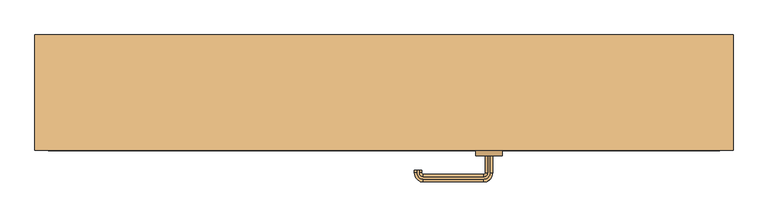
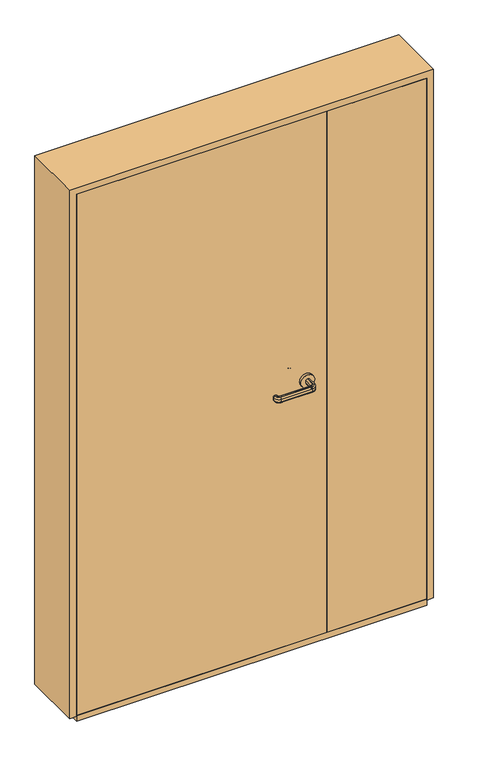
"""IFC4 building model written with IfcOpenShell, lengths in millimetres: door geometry, □C1 親子 フラッシュ_A2枠 : SD1_H2000W1250."""

from ifc_helpers import new_model, si_unit, point, frame, frame_2d, origin, place, context, project, spatial, polyline, circle_curve, ellipse_curve, trimmed, segment, composite_curve, outline, extrude, faceted_brep, source, transform, mapped, element, save
from ifc_brep_helpers import plane_surface, cylinder_surface, revolved_surface, advanced_brep


def door_5352abf3(model_context):
    return source(origin(), model_context, "Body", "SolidModel", [
        extrude(outline(polyline([(640.0, -110.0), (-640.0, -110.0), (-640.0, -65.0), (640.0, -65.0), (640.0, -110.0)])), frame((0.0, 0.0, -20.0), z_axis=(0.0, 0.0, 1.0), x_axis=(1.0, 0.0, 0.0)), (0.0, 0.0, 1.0), 23.0),
        extrude(outline(polyline([(640.0, -65.0), (640.0, -110.0), (275.0, -110.0), (275.0, -65.0), (640.0, -65.0)])), frame((0.0, 0.0, 5.0), z_axis=(0.0, 0.0, 1.0), x_axis=(1.0, 0.0, 0.0)), (0.0, 0.0, 1.0), 2010.0),
        advanced_brep(
        [(202.0, -120.0, 1015.0), (207.0, -120.0, 1010.0), (207.0, -120.0, 1000.0477623), (202.0, -120.0, 995.0477623), (198.0, -120.0, 995.0477623), (193.0, -120.0, 1000.0477623), (193.0, -120.0, 1010.0), (198.0, -120.0, 1015.0), (202.0, -152.5, 1015.0), (207.0, -152.5, 1010.0), (207.0, -152.5, 1000.0477623), (202.0, -152.5, 995.0477623), (190.0, -164.5, 995.0477623), (75.0, -164.5, 995.0477623), (63.0, -152.5, 995.0477623), (63.0, -147.5, 995.0477623), (67.0, -147.5, 995.0477623), (67.0, -152.5, 995.0477623), (75.0, -160.5, 995.0477623), (190.0, -160.5, 995.0477623), (198.0, -152.5, 995.0477623), (193.0, -152.5, 1000.0477623), (193.0, -152.5, 1010.0), (198.0, -152.5, 1015.0), (190.0, -160.5, 1015.0), (75.0, -160.5, 1015.0), (67.0, -152.5, 1015.0), (67.0, -147.5, 1015.0), (63.0, -147.5, 1015.0), (63.0, -152.5, 1015.0), (75.0, -164.5, 1015.0), (190.0, -164.5, 1015.0), (190.0, -169.5, 1010.0), (190.0, -169.5, 1000.0477623), (190.0, -155.5, 1000.0477623), (190.0, -155.5, 1010.0), (75.0, -169.5, 1010.0), (75.0, -169.5, 1000.0477623), (75.0, -155.5, 1000.0477623), (75.0, -155.5, 1010.0), (58.0, -152.5, 1010.0), (58.0, -152.5, 1000.0477623), (72.0, -152.5, 1000.0477623), (72.0, -152.5, 1010.0), (72.0, -147.5, 1010.0), (72.0, -147.5, 1000.0477623), (58.0, -147.5, 1000.0477623), (58.0, -147.5, 1010.0)],
        [
            (0, 1, circle_curve(frame((202.0, -120.0, 1010.0), z_axis=(0.0, 1.0, 0.0), x_axis=(1.0, 0.0, 0.0)), 5.0)),
            (1, 2),
            (2, 3, circle_curve(frame((202.0, -120.0, 1000.0477623), z_axis=(0.0, 1.0, 0.0), x_axis=(1.0, 0.0, 0.0)), 5.0)),
            (3, 4),
            (4, 5, circle_curve(frame((198.0, -120.0, 1000.0477623), z_axis=(0.0, 1.0, 0.0), x_axis=(1.0, 0.0, 0.0)), 5.0)),
            (5, 6),
            (6, 7, circle_curve(frame((198.0, -120.0, 1010.0), z_axis=(0.0, 1.0, 0.0), x_axis=(1.0, 0.0, 0.0)), 5.0)),
            (7, 0),
            (0, 8),
            (8, 9, circle_curve(frame((202.0, -152.5, 1010.0), z_axis=(0.0, 1.0, 0.0), x_axis=(1.0, 0.0, 0.0)), 5.0)),
            (9, 1),
            (9, 10),
            (10, 2),
            (10, 11, circle_curve(frame((202.0, -152.5, 1000.0477623), z_axis=(0.0, 1.0, 0.0), x_axis=(1.0, 0.0, 0.0)), 5.0)),
            (11, 3),
            (11, 12, circle_curve(frame((190.0, -152.5, 995.0477623), z_axis=(0.0, 0.0, -1.0), x_axis=(1.0, 0.0, 0.0)), 12.0)),
            (12, 13),
            (13, 14, circle_curve(frame((75.0, -152.5, 995.0477623), z_axis=(0.0, 0.0, -1.0), x_axis=(0.0, -1.0, 0.0)), 12.0)),
            (14, 15),
            (15, 16),
            (16, 17),
            (17, 18, circle_curve(frame((75.0, -152.5, 995.0477623), z_axis=(0.0, 0.0, 1.0), x_axis=(0.0, -1.0, 0.0)), 8.0)),
            (18, 19),
            (19, 20, circle_curve(frame((190.0, -152.5, 995.0477623), z_axis=(0.0, 0.0, 1.0), x_axis=(1.0, 0.0, 0.0)), 8.0)),
            (20, 4),
            (20, 21, circle_curve(frame((198.0, -152.5, 1000.0477623), z_axis=(0.0, 1.0, 0.0), x_axis=(1.0, 0.0, 0.0)), 5.0)),
            (21, 5),
            (21, 22),
            (22, 6),
            (22, 23, circle_curve(frame((198.0, -152.5, 1010.0), z_axis=(0.0, 1.0, 0.0), x_axis=(1.0, 0.0, 0.0)), 5.0)),
            (23, 7),
            (23, 24, circle_curve(frame((190.0, -152.5, 1015.0), z_axis=(0.0, 0.0, -1.0), x_axis=(1.0, 0.0, 0.0)), 8.0)),
            (24, 25),
            (25, 26, circle_curve(frame((75.0, -152.5, 1015.0), z_axis=(0.0, 0.0, -1.0), x_axis=(0.0, -1.0, 0.0)), 8.0)),
            (26, 27),
            (27, 28),
            (28, 29),
            (29, 30, circle_curve(frame((75.0, -152.5, 1015.0), z_axis=(0.0, 0.0, 1.0), x_axis=(0.0, -1.0, 0.0)), 12.0)),
            (30, 31),
            (31, 8, circle_curve(frame((190.0, -152.5, 1015.0), z_axis=(0.0, 0.0, 1.0), x_axis=(1.0, 0.0, 0.0)), 12.0)),
            (32, 9, circle_curve(frame((190.0, -152.5, 1010.0), z_axis=(0.0, 0.0, 1.0), x_axis=(1.0, 0.0, 0.0)), 17.0)),
            (31, 32, circle_curve(frame((190.0, -164.5, 1010.0), z_axis=(1.0, 0.0, 0.0), x_axis=(0.0, -1.0, 0.0)), 5.0)),
            (33, 10, circle_curve(frame((190.0, -152.5, 1000.0477623), z_axis=(0.0, 0.0, 1.0), x_axis=(1.0, 0.0, 0.0)), 17.0)),
            (32, 33),
            (33, 12, circle_curve(frame((190.0, -164.5, 1000.0477623), z_axis=(1.0, 0.0, 0.0), x_axis=(0.0, -1.0, 0.0)), 5.0)),
            (34, 21, circle_curve(frame((190.0, -152.5, 1000.0477623), z_axis=(0.0, 0.0, 1.0), x_axis=(1.0, 0.0, 0.0)), 3.0)),
            (19, 34, circle_curve(frame((190.0, -160.5, 1000.0477623), z_axis=(1.0, 0.0, 0.0), x_axis=(0.0, -1.0, 0.0)), 5.0)),
            (35, 22, circle_curve(frame((190.0, -152.5, 1010.0), z_axis=(0.0, 0.0, 1.0), x_axis=(1.0, 0.0, 0.0)), 3.0)),
            (34, 35),
            (35, 24, circle_curve(frame((190.0, -160.5, 1010.0), z_axis=(1.0, 0.0, 0.0), x_axis=(0.0, -1.0, 0.0)), 5.0)),
            (30, 36, circle_curve(frame((75.0, -164.5, 1010.0), z_axis=(1.0, 0.0, 0.0), x_axis=(0.0, -1.0, 0.0)), 5.0)),
            (36, 32),
            (36, 37),
            (37, 33),
            (37, 13, circle_curve(frame((75.0, -164.5, 1000.0477623), z_axis=(1.0, 0.0, 0.0), x_axis=(0.0, -1.0, 0.0)), 5.0)),
            (18, 38, circle_curve(frame((75.0, -160.5, 1000.0477623), z_axis=(1.0, 0.0, 0.0), x_axis=(0.0, -1.0, 0.0)), 5.0)),
            (38, 34),
            (38, 39),
            (39, 35),
            (39, 25, circle_curve(frame((75.0, -160.5, 1010.0), z_axis=(1.0, 0.0, 0.0), x_axis=(0.0, -1.0, 0.0)), 5.0)),
            (40, 36, circle_curve(frame((75.0, -152.5, 1010.0), z_axis=(0.0, 0.0, 1.0), x_axis=(0.0, -1.0, 0.0)), 17.0)),
            (29, 40, circle_curve(frame((63.0, -152.5, 1010.0), z_axis=(0.0, -1.0, 0.0), x_axis=(-1.0, 0.0, 0.0)), 5.0)),
            (41, 37, circle_curve(frame((75.0, -152.5, 1000.0477623), z_axis=(0.0, 0.0, 1.0), x_axis=(0.0, -1.0, 0.0)), 17.0)),
            (40, 41),
            (41, 14, circle_curve(frame((63.0, -152.5, 1000.0477623), z_axis=(0.0, -1.0, 0.0), x_axis=(-1.0, 0.0, 0.0)), 5.0)),
            (42, 38, circle_curve(frame((75.0, -152.5, 1000.0477623), z_axis=(0.0, 0.0, 1.0), x_axis=(0.0, -1.0, 0.0)), 3.0)),
            (17, 42, circle_curve(frame((67.0, -152.5, 1000.0477623), z_axis=(0.0, -1.0, 0.0), x_axis=(-1.0, 0.0, 0.0)), 5.0)),
            (43, 39, circle_curve(frame((75.0, -152.5, 1010.0), z_axis=(0.0, 0.0, 1.0), x_axis=(0.0, -1.0, 0.0)), 3.0)),
            (42, 43),
            (43, 26, circle_curve(frame((67.0, -152.5, 1010.0), z_axis=(0.0, -1.0, 0.0), x_axis=(-1.0, 0.0, 0.0)), 5.0)),
            (27, 44, circle_curve(frame((67.0, -147.5, 1010.0), z_axis=(0.0, 1.0, 0.0), x_axis=(-1.0, 0.0, 0.0)), 5.0)),
            (44, 45),
            (45, 16, circle_curve(frame((67.0, -147.5, 1000.0477623), z_axis=(0.0, 1.0, 0.0), x_axis=(-1.0, 0.0, 0.0)), 5.0)),
            (15, 46, circle_curve(frame((63.0, -147.5, 1000.0477623), z_axis=(0.0, 1.0, 0.0), x_axis=(-1.0, 0.0, 0.0)), 5.0)),
            (46, 47),
            (47, 28, circle_curve(frame((63.0, -147.5, 1010.0), z_axis=(0.0, 1.0, 0.0), x_axis=(-1.0, 0.0, 0.0)), 5.0)),
            (47, 40),
            (46, 41),
            (45, 42),
            (44, 43),
        ],
        [
            plane_surface(frame((210.198039, -120.0, 1005.0), z_axis=(0.0, 1.0, 0.0), x_axis=(0.0, 0.0, 1.0))),
            cylinder_surface(frame((202.0, -120.0, 1010.0), z_axis=(0.0, 1.0, 0.0), x_axis=(1.0, 0.0, 0.0)), 5.0),
            plane_surface(frame((207.0, -120.0, 1010.0), z_axis=(1.0, 0.0, 0.0), x_axis=(0.0, -1.0, 0.0))),
            cylinder_surface(frame((202.0, -120.0, 1000.0477623), z_axis=(0.0, 1.0, 0.0), x_axis=(1.0, 0.0, 0.0)), 5.0),
            plane_surface(frame((202.0, -120.0, 995.0477623), z_axis=(0.0, 0.0, -1.0), x_axis=(0.0, -1.0, 0.0))),
            cylinder_surface(frame((198.0, -120.0, 1000.0477623), z_axis=(0.0, 1.0, 0.0), x_axis=(1.0, 0.0, 0.0)), 5.0),
            plane_surface(frame((193.0, -120.0, 1000.0477623), z_axis=(-1.0, 0.0, 0.0), x_axis=(0.0, -1.0, 0.0))),
            cylinder_surface(frame((198.0, -120.0, 1010.0), z_axis=(0.0, 1.0, 0.0), x_axis=(1.0, 0.0, 0.0)), 5.0),
            plane_surface(frame((198.0, -120.0, 1015.0), z_axis=(0.0, 0.0, 1.0), x_axis=(0.0, -1.0, 0.0))),
            revolved_surface(trimmed(ellipse_curve(frame((202.0, -152.5, 1010.0), z_axis=(0.0, 1.0, 0.0), x_axis=(1.0, 0.0, 0.0)), 5.0, 5.0), [point((202.0, -152.5, 1015.0))], [point((207.0, -152.5, 1010.0))], True, "CARTESIAN"), (190.0, -152.5, 1005.0), (0.0, 0.0, -1.0)),
            cylinder_surface(frame((190.0, -152.5, 1005.0), z_axis=(0.0, 0.0, -1.0), x_axis=(1.0, 0.0, 0.0)), 17.0),
            revolved_surface(trimmed(ellipse_curve(frame((202.0, -152.5, 1000.0477623), z_axis=(0.0, 1.0, 0.0), x_axis=(1.0, 0.0, 0.0)), 5.0, 5.0), [point((207.0, -152.5, 1000.0477623))], [point((202.0, -152.5, 995.0477623))], True, "CARTESIAN"), (190.0, -152.5, 1005.0), (0.0, 0.0, -1.0)),
            revolved_surface(trimmed(ellipse_curve(frame((198.0, -152.5, 1000.0477623), z_axis=(0.0, 1.0, 0.0), x_axis=(1.0, 0.0, 0.0)), 5.0, 5.0), [point((198.0, -152.5, 995.0477623))], [point((193.0, -152.5, 1000.0477623))], True, "CARTESIAN"), (190.0, -152.5, 1005.0), (0.0, 0.0, -1.0)),
            revolved_surface(polyline([(193.0, -152.5, 1000.0477623), (193.0, -152.5, 1010.0)]), (190.0, -152.5, 1005.0), (0.0, 0.0, -1.0)),
            revolved_surface(trimmed(ellipse_curve(frame((198.0, -152.5, 1010.0), z_axis=(0.0, 1.0, 0.0), x_axis=(1.0, 0.0, 0.0)), 5.0, 5.0), [point((193.0, -152.5, 1010.0))], [point((198.0, -152.5, 1015.0))], True, "CARTESIAN"), (190.0, -152.5, 1005.0), (0.0, 0.0, -1.0)),
            cylinder_surface(frame((190.0, -164.5, 1010.0), z_axis=(1.0, 0.0, 0.0), x_axis=(0.0, -1.0, 0.0)), 5.0),
            plane_surface(frame((190.0, -169.5, 1010.0), z_axis=(0.0, -1.0, 0.0), x_axis=(-1.0, 0.0, 0.0))),
            cylinder_surface(frame((190.0, -164.5, 1000.0477623), z_axis=(1.0, 0.0, 0.0), x_axis=(0.0, -1.0, 0.0)), 5.0),
            cylinder_surface(frame((190.0, -160.5, 1000.0477623), z_axis=(1.0, 0.0, 0.0), x_axis=(0.0, -1.0, 0.0)), 5.0),
            plane_surface(frame((190.0, -155.5, 1000.0477623), z_axis=(0.0, 1.0, 0.0), x_axis=(-1.0, 0.0, 0.0))),
            cylinder_surface(frame((190.0, -160.5, 1010.0), z_axis=(1.0, 0.0, 0.0), x_axis=(0.0, -1.0, 0.0)), 5.0),
            revolved_surface(trimmed(ellipse_curve(frame((75.0, -164.5, 1010.0), z_axis=(1.0, 0.0, 0.0), x_axis=(0.0, -1.0, 0.0)), 5.0, 5.0), [point((75.0, -164.5, 1015.0))], [point((75.0, -169.5, 1010.0))], True, "CARTESIAN"), (75.0, -152.5, 1005.0), (0.0, 0.0, -1.0)),
            cylinder_surface(frame((75.0, -152.5, 1005.0), z_axis=(0.0, 0.0, -1.0), x_axis=(0.0, -1.0, 0.0)), 17.0),
            revolved_surface(trimmed(ellipse_curve(frame((75.0, -164.5, 1000.0477623), z_axis=(1.0, 0.0, 0.0), x_axis=(0.0, -1.0, 0.0)), 5.0, 5.0), [point((75.0, -169.5, 1000.0477623))], [point((75.0, -164.5, 995.0477623))], True, "CARTESIAN"), (75.0, -152.5, 1005.0), (0.0, 0.0, -1.0)),
            revolved_surface(trimmed(ellipse_curve(frame((75.0, -160.5, 1000.0477623), z_axis=(1.0, 0.0, 0.0), x_axis=(0.0, -1.0, 0.0)), 5.0, 5.0), [point((75.0, -160.5, 995.0477623))], [point((75.0, -155.5, 1000.0477623))], True, "CARTESIAN"), (75.0, -152.5, 1005.0), (0.0, 0.0, -1.0)),
            revolved_surface(polyline([(75.0, -155.5, 1000.0477623), (75.0, -155.5, 1010.0)]), (75.0, -152.5, 1005.0), (0.0, 0.0, -1.0)),
            revolved_surface(trimmed(ellipse_curve(frame((75.0, -160.5, 1010.0), z_axis=(1.0, 0.0, 0.0), x_axis=(0.0, -1.0, 0.0)), 5.0, 5.0), [point((75.0, -155.5, 1010.0))], [point((75.0, -160.5, 1015.0))], True, "CARTESIAN"), (75.0, -152.5, 1005.0), (0.0, 0.0, -1.0)),
            plane_surface(frame((75.198039, -147.5, 1005.0), z_axis=(0.0, 1.0, 0.0), x_axis=(0.0, 0.0, -1.0))),
            cylinder_surface(frame((63.0, -152.5, 1010.0), z_axis=(0.0, -1.0, 0.0), x_axis=(-1.0, 0.0, 0.0)), 5.0),
            plane_surface(frame((58.0, -152.5, 1010.0), z_axis=(-1.0, 0.0, 0.0), x_axis=(0.0, 1.0, 0.0))),
            cylinder_surface(frame((63.0, -152.5, 1000.0477623), z_axis=(0.0, -1.0, 0.0), x_axis=(-1.0, 0.0, 0.0)), 5.0),
            cylinder_surface(frame((67.0, -152.5, 1000.0477623), z_axis=(0.0, -1.0, 0.0), x_axis=(-1.0, 0.0, 0.0)), 5.0),
            plane_surface(frame((72.0, -152.5, 1000.0477623), z_axis=(1.0, 0.0, 0.0), x_axis=(0.0, 1.0, 0.0))),
            cylinder_surface(frame((67.0, -152.5, 1010.0), z_axis=(0.0, -1.0, 0.0), x_axis=(-1.0, 0.0, 0.0)), 5.0),
        ],
        [
            (0, [[1, 2, 3, 4, 5, 6, 7, 8]]),
            (1, [[-1, 9, 10, 11]]),
            (2, [[-2, -11, 12, 13]]),
            (3, [[-3, -13, 14, 15]]),
            (4, [[-4, -15, 16, 17, 18, 19, 20, 21, 22, 23, 24, 25]]),
            (5, [[-5, -25, 26, 27]]),
            (6, [[-6, -27, 28, 29]]),
            (7, [[-7, -29, 30, 31]]),
            (8, [[-8, -31, 32, 33, 34, 35, 36, 37, 38, 39, 40, -9]]),
            (9, [[41, -10, -40, 42]]),
            (10, [[43, -12, -41, 44]]),
            (11, [[-16, -14, -43, 45]]),
            (12, [[46, -26, -24, 47]]),
            (13, [[48, -28, -46, 49]]),
            (14, [[-32, -30, -48, 50]]),
            (15, [[-42, -39, 51, 52]]),
            (16, [[-44, -52, 53, 54]]),
            (17, [[-45, -54, 55, -17]]),
            (18, [[-47, -23, 56, 57]]),
            (19, [[-49, -57, 58, 59]]),
            (20, [[-50, -59, 60, -33]]),
            (21, [[61, -51, -38, 62]]),
            (22, [[63, -53, -61, 64]]),
            (23, [[-18, -55, -63, 65]]),
            (24, [[66, -56, -22, 67]]),
            (25, [[68, -58, -66, 69]]),
            (26, [[-34, -60, -68, 70]]),
            (27, [[-36, 71, 72, 73, -20, 74, 75, 76]]),
            (28, [[-62, -37, -76, 77]]),
            (29, [[-64, -77, -75, 78]]),
            (30, [[-65, -78, -74, -19]]),
            (31, [[-67, -21, -73, 79]]),
            (32, [[-69, -79, -72, 80]]),
            (33, [[-70, -80, -71, -35]]),
        ],
    ),
        advanced_brep(
        [(198.0, -55.0, 995.0), (202.0, -55.0, 995.0), (207.0, -55.0, 1000.0), (207.0, -55.0, 1010.0), (202.0, -55.0, 1015.0), (198.0, -55.0, 1015.0), (193.0, -55.0, 1010.0), (193.0, -55.0, 1000.0), (198.0, -22.5, 995.0), (190.0, -14.5, 995.0), (75.0, -14.5, 995.0), (67.0, -22.5, 995.0), (67.0, -27.5, 995.0), (63.0, -27.5, 995.0), (63.0, -22.5, 995.0), (75.0, -10.5, 995.0), (190.0, -10.5, 995.0), (202.0, -22.5, 995.0), (207.0, -22.5, 1000.0), (207.0, -22.5, 1010.0), (202.0, -22.5, 1015.0), (190.0, -10.5, 1015.0), (75.0, -10.5, 1015.0), (63.0, -22.5, 1015.0), (63.0, -27.5, 1015.0), (67.0, -27.5, 1015.0), (67.0, -22.5, 1015.0), (75.0, -14.5, 1015.0), (190.0, -14.5, 1015.0), (198.0, -22.5, 1015.0), (193.0, -22.5, 1010.0), (193.0, -22.5, 1000.0), (190.0, -5.5, 1000.0), (190.0, -5.5, 1010.0), (190.0, -19.5, 1010.0), (190.0, -19.5, 1000.0), (75.0, -5.5, 1000.0), (75.0, -5.5, 1010.0), (75.0, -19.5, 1010.0), (75.0, -19.5, 1000.0), (58.0, -22.5, 1000.0), (58.0, -22.5, 1010.0), (72.0, -22.5, 1010.0), (72.0, -22.5, 1000.0), (72.0, -27.5, 1000.0), (72.0, -27.5, 1010.0), (58.0, -27.5, 1010.0), (58.0, -27.5, 1000.0)],
        [
            (0, 1),
            (1, 2, circle_curve(frame((202.0, -55.0, 1000.0), z_axis=(0.0, -1.0, 0.0), x_axis=(-1.0, 0.0, 0.0)), 5.0)),
            (2, 3),
            (3, 4, circle_curve(frame((202.0, -55.0, 1010.0), z_axis=(0.0, -1.0, 0.0), x_axis=(-1.0, 0.0, 0.0)), 5.0)),
            (4, 5),
            (5, 6, circle_curve(frame((198.0, -55.0, 1010.0), z_axis=(0.0, -1.0, 0.0), x_axis=(-1.0, 0.0, 0.0)), 5.0)),
            (6, 7),
            (7, 0, circle_curve(frame((198.0, -55.0, 1000.0), z_axis=(0.0, -1.0, 0.0), x_axis=(-1.0, 0.0, 0.0)), 5.0)),
            (0, 8),
            (8, 9, circle_curve(frame((190.0, -22.5, 995.0), z_axis=(0.0, 0.0, 1.0), x_axis=(1.0, 0.0, 0.0)), 8.0)),
            (9, 10),
            (10, 11, circle_curve(frame((75.0, -22.5, 995.0), z_axis=(0.0, 0.0, 1.0), x_axis=(0.0, 1.0, 0.0)), 8.0)),
            (11, 12),
            (12, 13),
            (13, 14),
            (14, 15, circle_curve(frame((75.0, -22.5, 995.0), z_axis=(0.0, 0.0, -1.0), x_axis=(0.0, 1.0, 0.0)), 12.0)),
            (15, 16),
            (16, 17, circle_curve(frame((190.0, -22.5, 995.0), z_axis=(0.0, 0.0, -1.0), x_axis=(1.0, 0.0, 0.0)), 12.0)),
            (17, 1),
            (17, 18, circle_curve(frame((202.0, -22.5, 1000.0), z_axis=(0.0, -1.0, 0.0), x_axis=(-1.0, 0.0, 0.0)), 5.0)),
            (18, 2),
            (18, 19),
            (19, 3),
            (19, 20, circle_curve(frame((202.0, -22.5, 1010.0), z_axis=(0.0, -1.0, 0.0), x_axis=(-1.0, 0.0, 0.0)), 5.0)),
            (20, 4),
            (20, 21, circle_curve(frame((190.0, -22.5, 1015.0), z_axis=(0.0, 0.0, 1.0), x_axis=(1.0, 0.0, 0.0)), 12.0)),
            (21, 22),
            (22, 23, circle_curve(frame((75.0, -22.5, 1015.0), z_axis=(0.0, 0.0, 1.0), x_axis=(0.0, 1.0, 0.0)), 12.0)),
            (23, 24),
            (24, 25),
            (25, 26),
            (26, 27, circle_curve(frame((75.0, -22.5, 1015.0), z_axis=(0.0, 0.0, -1.0), x_axis=(0.0, 1.0, 0.0)), 8.0)),
            (27, 28),
            (28, 29, circle_curve(frame((190.0, -22.5, 1015.0), z_axis=(0.0, 0.0, -1.0), x_axis=(1.0, 0.0, 0.0)), 8.0)),
            (29, 5),
            (29, 30, circle_curve(frame((198.0, -22.5, 1010.0), z_axis=(0.0, -1.0, 0.0), x_axis=(-1.0, 0.0, 0.0)), 5.0)),
            (30, 6),
            (30, 31),
            (31, 7),
            (31, 8, circle_curve(frame((198.0, -22.5, 1000.0), z_axis=(0.0, -1.0, 0.0), x_axis=(-1.0, 0.0, 0.0)), 5.0)),
            (32, 18, circle_curve(frame((190.0, -22.5, 1000.0), z_axis=(0.0, 0.0, -1.0), x_axis=(1.0, 0.0, 0.0)), 17.0)),
            (16, 32, circle_curve(frame((190.0, -10.5, 1000.0), z_axis=(1.0, 0.0, 0.0), x_axis=(0.0, -1.0, 0.0)), 5.0)),
            (33, 19, circle_curve(frame((190.0, -22.5, 1010.0), z_axis=(0.0, 0.0, -1.0), x_axis=(1.0, 0.0, 0.0)), 17.0)),
            (32, 33),
            (33, 21, circle_curve(frame((190.0, -10.5, 1010.0), z_axis=(1.0, 0.0, 0.0), x_axis=(0.0, -1.0, 0.0)), 5.0)),
            (34, 30, circle_curve(frame((190.0, -22.5, 1010.0), z_axis=(0.0, 0.0, -1.0), x_axis=(1.0, 0.0, 0.0)), 3.0)),
            (28, 34, circle_curve(frame((190.0, -14.5, 1010.0), z_axis=(1.0, 0.0, 0.0), x_axis=(0.0, -1.0, 0.0)), 5.0)),
            (35, 31, circle_curve(frame((190.0, -22.5, 1000.0), z_axis=(0.0, 0.0, -1.0), x_axis=(1.0, 0.0, 0.0)), 3.0)),
            (34, 35),
            (35, 9, circle_curve(frame((190.0, -14.5, 1000.0), z_axis=(1.0, 0.0, 0.0), x_axis=(0.0, -1.0, 0.0)), 5.0)),
            (15, 36, circle_curve(frame((75.0, -10.5, 1000.0), z_axis=(1.0, 0.0, 0.0), x_axis=(0.0, -1.0, 0.0)), 5.0)),
            (36, 32),
            (36, 37),
            (37, 33),
            (37, 22, circle_curve(frame((75.0, -10.5, 1010.0), z_axis=(1.0, 0.0, 0.0), x_axis=(0.0, -1.0, 0.0)), 5.0)),
            (27, 38, circle_curve(frame((75.0, -14.5, 1010.0), z_axis=(1.0, 0.0, 0.0), x_axis=(0.0, -1.0, 0.0)), 5.0)),
            (38, 34),
            (38, 39),
            (39, 35),
            (39, 10, circle_curve(frame((75.0, -14.5, 1000.0), z_axis=(1.0, 0.0, 0.0), x_axis=(0.0, -1.0, 0.0)), 5.0)),
            (40, 36, circle_curve(frame((75.0, -22.5, 1000.0), z_axis=(0.0, 0.0, -1.0), x_axis=(0.0, 1.0, 0.0)), 17.0)),
            (14, 40, circle_curve(frame((63.0, -22.5, 1000.0), z_axis=(0.0, 1.0, 0.0), x_axis=(1.0, 0.0, 0.0)), 5.0)),
            (41, 37, circle_curve(frame((75.0, -22.5, 1010.0), z_axis=(0.0, 0.0, -1.0), x_axis=(0.0, 1.0, 0.0)), 17.0)),
            (40, 41),
            (41, 23, circle_curve(frame((63.0, -22.5, 1010.0), z_axis=(0.0, 1.0, 0.0), x_axis=(1.0, 0.0, 0.0)), 5.0)),
            (42, 38, circle_curve(frame((75.0, -22.5, 1010.0), z_axis=(0.0, 0.0, -1.0), x_axis=(0.0, 1.0, 0.0)), 3.0)),
            (26, 42, circle_curve(frame((67.0, -22.5, 1010.0), z_axis=(0.0, 1.0, 0.0), x_axis=(1.0, 0.0, 0.0)), 5.0)),
            (43, 39, circle_curve(frame((75.0, -22.5, 1000.0), z_axis=(0.0, 0.0, -1.0), x_axis=(0.0, 1.0, 0.0)), 3.0)),
            (42, 43),
            (43, 11, circle_curve(frame((67.0, -22.5, 1000.0), z_axis=(0.0, 1.0, 0.0), x_axis=(1.0, 0.0, 0.0)), 5.0)),
            (12, 44, circle_curve(frame((67.0, -27.5, 1000.0), z_axis=(0.0, -1.0, 0.0), x_axis=(1.0, 0.0, 0.0)), 5.0)),
            (44, 45),
            (45, 25, circle_curve(frame((67.0, -27.5, 1010.0), z_axis=(0.0, -1.0, 0.0), x_axis=(1.0, 0.0, 0.0)), 5.0)),
            (24, 46, circle_curve(frame((63.0, -27.5, 1010.0), z_axis=(0.0, -1.0, 0.0), x_axis=(1.0, 0.0, 0.0)), 5.0)),
            (46, 47),
            (47, 13, circle_curve(frame((63.0, -27.5, 1000.0), z_axis=(0.0, -1.0, 0.0), x_axis=(1.0, 0.0, 0.0)), 5.0)),
            (47, 40),
            (46, 41),
            (45, 42),
            (44, 43),
        ],
        [
            plane_surface(frame((210.198039, -55.0, 1005.0), z_axis=(0.0, -1.0, 0.0), x_axis=(0.0, 0.0, -1.0))),
            plane_surface(frame((198.0, -55.0, 995.0), z_axis=(0.0, 0.0, -1.0), x_axis=(0.0, 1.0, 0.0))),
            cylinder_surface(frame((202.0, -55.0, 1000.0), z_axis=(0.0, -1.0, 0.0), x_axis=(-1.0, 0.0, 0.0)), 5.0),
            plane_surface(frame((207.0, -55.0, 1000.0), z_axis=(1.0, 0.0, 0.0), x_axis=(0.0, 1.0, 0.0))),
            cylinder_surface(frame((202.0, -55.0, 1010.0), z_axis=(0.0, -1.0, 0.0), x_axis=(-1.0, 0.0, 0.0)), 5.0),
            plane_surface(frame((202.0, -55.0, 1015.0), z_axis=(0.0, 0.0, 1.0), x_axis=(0.0, 1.0, 0.0))),
            cylinder_surface(frame((198.0, -55.0, 1010.0), z_axis=(0.0, -1.0, 0.0), x_axis=(-1.0, 0.0, 0.0)), 5.0),
            plane_surface(frame((193.0, -55.0, 1010.0), z_axis=(-1.0, 0.0, 0.0), x_axis=(0.0, 1.0, 0.0))),
            cylinder_surface(frame((198.0, -55.0, 1000.0), z_axis=(0.0, -1.0, 0.0), x_axis=(-1.0, 0.0, 0.0)), 5.0),
            revolved_surface(trimmed(ellipse_curve(frame((202.0, -22.5, 1000.0), z_axis=(0.0, -1.0, 0.0), x_axis=(-1.0, 0.0, 0.0)), 5.0, 5.0), [point((202.0, -22.5, 995.0))], [point((207.0, -22.5, 1000.0))], True, "CARTESIAN"), (190.0, -22.5, 1005.0), (0.0, 0.0, 1.0)),
            cylinder_surface(frame((190.0, -22.5, 1005.0), z_axis=(0.0, 0.0, 1.0), x_axis=(1.0, 0.0, 0.0)), 17.0),
            revolved_surface(trimmed(ellipse_curve(frame((202.0, -22.5, 1010.0), z_axis=(0.0, -1.0, 0.0), x_axis=(-1.0, 0.0, 0.0)), 5.0, 5.0), [point((207.0, -22.5, 1010.0))], [point((202.0, -22.5, 1015.0))], True, "CARTESIAN"), (190.0, -22.5, 1005.0), (0.0, 0.0, 1.0)),
            revolved_surface(trimmed(ellipse_curve(frame((198.0, -22.5, 1010.0), z_axis=(0.0, -1.0, 0.0), x_axis=(-1.0, 0.0, 0.0)), 5.0, 5.0), [point((198.0, -22.5, 1015.0))], [point((193.0, -22.5, 1010.0))], True, "CARTESIAN"), (190.0, -22.5, 1005.0), (0.0, 0.0, 1.0)),
            revolved_surface(polyline([(193.0, -22.5, 1010.0), (193.0, -22.5, 1000.0)]), (190.0, -22.5, 1005.0), (0.0, 0.0, 1.0)),
            revolved_surface(trimmed(ellipse_curve(frame((198.0, -22.5, 1000.0), z_axis=(0.0, -1.0, 0.0), x_axis=(-1.0, 0.0, 0.0)), 5.0, 5.0), [point((193.0, -22.5, 1000.0))], [point((198.0, -22.5, 995.0))], True, "CARTESIAN"), (190.0, -22.5, 1005.0), (0.0, 0.0, 1.0)),
            cylinder_surface(frame((190.0, -10.5, 1000.0), z_axis=(1.0, 0.0, 0.0), x_axis=(0.0, -1.0, 0.0)), 5.0),
            plane_surface(frame((190.0, -5.5, 1000.0), z_axis=(0.0, 1.0, 0.0), x_axis=(-1.0, 0.0, 0.0))),
            cylinder_surface(frame((190.0, -10.5, 1010.0), z_axis=(1.0, 0.0, 0.0), x_axis=(0.0, -1.0, 0.0)), 5.0),
            cylinder_surface(frame((190.0, -14.5, 1010.0), z_axis=(1.0, 0.0, 0.0), x_axis=(0.0, -1.0, 0.0)), 5.0),
            plane_surface(frame((190.0, -19.5, 1010.0), z_axis=(0.0, -1.0, 0.0), x_axis=(-1.0, 0.0, 0.0))),
            cylinder_surface(frame((190.0, -14.5, 1000.0), z_axis=(1.0, 0.0, 0.0), x_axis=(0.0, -1.0, 0.0)), 5.0),
            revolved_surface(trimmed(ellipse_curve(frame((75.0, -10.5, 1000.0), z_axis=(1.0, 0.0, 0.0), x_axis=(0.0, -1.0, 0.0)), 5.0, 5.0), [point((75.0, -10.5, 995.0))], [point((75.0, -5.5, 1000.0))], True, "CARTESIAN"), (75.0, -22.5, 1005.0), (0.0, 0.0, 1.0)),
            cylinder_surface(frame((75.0, -22.5, 1005.0), z_axis=(0.0, 0.0, 1.0), x_axis=(0.0, 1.0, 0.0)), 17.0),
            revolved_surface(trimmed(ellipse_curve(frame((75.0, -10.5, 1010.0), z_axis=(1.0, 0.0, 0.0), x_axis=(0.0, -1.0, 0.0)), 5.0, 5.0), [point((75.0, -5.5, 1010.0))], [point((75.0, -10.5, 1015.0))], True, "CARTESIAN"), (75.0, -22.5, 1005.0), (0.0, 0.0, 1.0)),
            revolved_surface(trimmed(ellipse_curve(frame((75.0, -14.5, 1010.0), z_axis=(1.0, 0.0, 0.0), x_axis=(0.0, -1.0, 0.0)), 5.0, 5.0), [point((75.0, -14.5, 1015.0))], [point((75.0, -19.5, 1010.0))], True, "CARTESIAN"), (75.0, -22.5, 1005.0), (0.0, 0.0, 1.0)),
            revolved_surface(polyline([(75.0, -19.5, 1010.0), (75.0, -19.5, 1000.0)]), (75.0, -22.5, 1005.0), (0.0, 0.0, 1.0)),
            revolved_surface(trimmed(ellipse_curve(frame((75.0, -14.5, 1000.0), z_axis=(1.0, 0.0, 0.0), x_axis=(0.0, -1.0, 0.0)), 5.0, 5.0), [point((75.0, -19.5, 1000.0))], [point((75.0, -14.5, 995.0))], True, "CARTESIAN"), (75.0, -22.5, 1005.0), (0.0, 0.0, 1.0)),
            plane_surface(frame((75.198039, -27.5, 1005.0), z_axis=(0.0, -1.0, 0.0), x_axis=(0.0, 0.0, 1.0))),
            cylinder_surface(frame((63.0, -22.5, 1000.0), z_axis=(0.0, 1.0, 0.0), x_axis=(1.0, 0.0, 0.0)), 5.0),
            plane_surface(frame((58.0, -22.5, 1000.0), z_axis=(-1.0, 0.0, 0.0), x_axis=(0.0, -1.0, 0.0))),
            cylinder_surface(frame((63.0, -22.5, 1010.0), z_axis=(0.0, 1.0, 0.0), x_axis=(1.0, 0.0, 0.0)), 5.0),
            cylinder_surface(frame((67.0, -22.5, 1010.0), z_axis=(0.0, 1.0, 0.0), x_axis=(1.0, 0.0, 0.0)), 5.0),
            plane_surface(frame((72.0, -22.5, 1010.0), z_axis=(1.0, 0.0, 0.0), x_axis=(0.0, -1.0, 0.0))),
            cylinder_surface(frame((67.0, -22.5, 1000.0), z_axis=(0.0, 1.0, 0.0), x_axis=(1.0, 0.0, 0.0)), 5.0),
        ],
        [
            (0, [[1, 2, 3, 4, 5, 6, 7, 8]]),
            (1, [[-1, 9, 10, 11, 12, 13, 14, 15, 16, 17, 18, 19]]),
            (2, [[-2, -19, 20, 21]]),
            (3, [[-3, -21, 22, 23]]),
            (4, [[-4, -23, 24, 25]]),
            (5, [[-5, -25, 26, 27, 28, 29, 30, 31, 32, 33, 34, 35]]),
            (6, [[-6, -35, 36, 37]]),
            (7, [[-7, -37, 38, 39]]),
            (8, [[-8, -39, 40, -9]]),
            (9, [[41, -20, -18, 42]]),
            (10, [[43, -22, -41, 44]]),
            (11, [[-26, -24, -43, 45]]),
            (12, [[46, -36, -34, 47]]),
            (13, [[48, -38, -46, 49]]),
            (14, [[-10, -40, -48, 50]]),
            (15, [[-42, -17, 51, 52]]),
            (16, [[-44, -52, 53, 54]]),
            (17, [[-45, -54, 55, -27]]),
            (18, [[-47, -33, 56, 57]]),
            (19, [[-49, -57, 58, 59]]),
            (20, [[-50, -59, 60, -11]]),
            (21, [[61, -51, -16, 62]]),
            (22, [[63, -53, -61, 64]]),
            (23, [[-28, -55, -63, 65]]),
            (24, [[66, -56, -32, 67]]),
            (25, [[68, -58, -66, 69]]),
            (26, [[-12, -60, -68, 70]]),
            (27, [[71, 72, 73, -30, 74, 75, 76, -14]]),
            (28, [[-62, -15, -76, 77]]),
            (29, [[-64, -77, -75, 78]]),
            (30, [[-65, -78, -74, -29]]),
            (31, [[-67, -31, -73, 79]]),
            (32, [[-69, -79, -72, 80]]),
            (33, [[-70, -80, -71, -13]]),
        ],
    ),
        extrude(outline(composite_curve([segment(trimmed(circle_curve(frame_2d((1005.0, 200.0)), 25.0), [point((1005.0, 225.0))], [point((1005.0, 175.0))], False, "CARTESIAN"), True, "CONTINUOUS"), segment(trimmed(circle_curve(frame_2d((1005.0, 200.0)), 25.0), [point((1005.0, 175.0))], [point((1005.0, 225.0))], False, "CARTESIAN"), True, "CONTINUOUS")], self_intersect=False)), frame((0.0, -120.0, 0.0), z_axis=(0.0, 1.0, 0.0), x_axis=(0.0, 0.0, 1.0)), (0.0, 0.0, 1.0), 10.0),
        extrude(outline(composite_curve([segment(trimmed(circle_curve(frame_2d((1005.0, 200.0)), 25.0), [point((1005.0, 225.0))], [point((1005.0, 175.0))], False, "CARTESIAN"), True, "CONTINUOUS"), segment(trimmed(circle_curve(frame_2d((1005.0, 200.0)), 25.0), [point((1005.0, 175.0))], [point((1005.0, 225.0))], False, "CARTESIAN"), True, "CONTINUOUS")], self_intersect=False)), frame((0.0, -65.0, 0.0), z_axis=(0.0, 1.0, 0.0), x_axis=(0.0, 0.0, 1.0)), (0.0, 0.0, 1.0), 10.0),
        extrude(outline(polyline([(-640.0, -65.0), (275.0, -65.0), (275.0, -110.0), (-640.0, -110.0), (-640.0, -65.0)])), frame((0.0, 0.0, 5.0), z_axis=(0.0, 0.0, 1.0), x_axis=(1.0, 0.0, 0.0)), (0.0, 0.0, 1.0), 2010.0),
        faceted_brep([(-665.0, -110.0, 0.0), (-665.0, 110.0, 0.0), (-640.0, 110.0, 0.0), (-640.0, -45.0, 0.0), (-625.0, -45.0, 0.0), (-625.0, -65.0, 0.0), (-640.0, -65.0, 0.0), (-640.0, -110.0, 0.0), (-640.0, -110.0, 2015.0), (640.0, -110.0, 2015.0), (640.0, -110.0, 0.0), (665.0, -110.0, 0.0), (665.0, -110.0, 2040.0), (-665.0, -110.0, 2040.0), (-640.0, -65.0, 2015.0), (-625.0, -65.0, 2000.0), (625.0, -65.0, 2000.0), (625.0, -65.0, 0.0), (640.0, -65.0, 0.0), (640.0, -65.0, 2015.0), (-625.0, -45.0, 2000.0), (-640.0, -45.0, 2015.0), (640.0, -45.0, 2015.0), (640.0, -45.0, 0.0), (625.0, -45.0, 0.0), (625.0, -45.0, 2000.0), (-640.0, 110.0, 2015.0), (-665.0, 110.0, 2040.0), (665.0, 110.0, 2040.0), (665.0, 110.0, 0.0), (640.0, 110.0, 0.0), (640.0, 110.0, 2015.0)], [[[0, 1, 2, 3, 4, 5, 6, 7]], [[7, 8, 9, 10, 11, 12, 13, 0]], [[6, 14, 8, 7]], [[5, 15, 16, 17, 18, 19, 14, 6]], [[4, 20, 15, 5]], [[3, 21, 22, 23, 24, 25, 20, 4]], [[2, 26, 21, 3]], [[1, 27, 28, 29, 30, 31, 26, 2]], [[0, 13, 27, 1]], [[14, 19, 9, 8]], [[20, 25, 16, 15]], [[26, 31, 22, 21]], [[13, 12, 28, 27]], [[11, 10, 18, 17, 24, 23, 30, 29]], [[19, 18, 10, 9]], [[25, 24, 17, 16]], [[31, 30, 23, 22]], [[12, 11, 29, 28]]]),
    ])


if __name__ == "__main__":
    model = new_model("IFC4")
    model_context = context("Model", 3, world=origin())
    ifc_project = project(units=[si_unit("LENGTHUNIT", "METRE", prefix="MILLI")], contexts=[model_context])
    site = spatial("IfcSite", under=ifc_project)
    building = spatial("IfcBuilding", under=site)
    placement = place(None, origin())
    door_shape = door_5352abf3(model_context)
    element("IfcDoor", 1, ObjectType="□C1 親子 フラッシュ_A2枠 : SD1_H2000W1250", at=placement, inside=building, context=model_context, shape_type="MappedRepresentation", body=[
        mapped(door_shape, transform((0.0, 0.0, 0.0), x_axis=(1.0, 0.0, 0.0), y_axis=(0.0, 1.0, 0.0), z_axis=(0.0, 0.0, 1.0))),
    ])
    save(model, "model.ifc")
